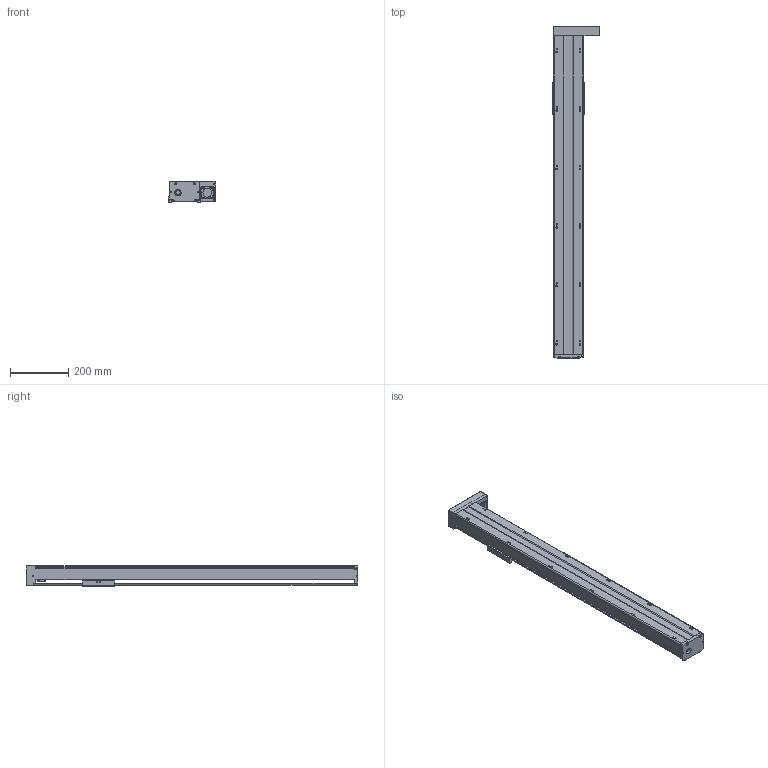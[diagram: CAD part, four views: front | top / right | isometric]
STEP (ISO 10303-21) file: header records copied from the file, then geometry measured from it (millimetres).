
FILE_DESCRIPTION(/* description */ (''),/* implementation_level */ '2;1');
FILE_NAME(/* name */ 'TKA100-FR-900_asm1.stp',/* time_stamp */ '2016-05-17T15:47:45+08:00',/* author */ (''),/* organization */ (''),/* preprocessor_version */ 'ST-DEVELOPER v15',/* originating_system */ 'SIEMENS PLM Software NX 8.5',/* authorisation */ '');
FILE_SCHEMA (('AUTOMOTIVE_DESIGN { 1 0 10303 214 3 1 1 1 }'));
Length unit declared in the file: millimetre
Products named in the file (3): 200-2; 200-1; TKA100-FR-900_asm1
Assembly tree (2 placements, depth 2):
  TKA100-FR-900_asm1
    200-1
    200-2
Bounding box: 162 x 1136 x 71 mm (x, y, z)
Volume: 2358727.4 mm3; surface area: 803374.6 mm2
Topology: 2 solids, 16 shells, 808 faces, 2105 edges, 1374 vertices
Faces by surface type: plane 324, cylinder 307, cone 123, torus 28, bspline 26
Full cylindrical faces by diameter (mm): 2.5 x6, 2.6 x8, 3.3 x11, 3.4 x4, 3.8 x8, 4.2 x21, 4.3 x4, 4.5 x6, 5 x2, 5.5 x20, 6.6 x4, 8 x4, 9 x6, 10 x13, 11 x4, 12 x6, 15.3 x1, 16 x1, 22 x1, 24 x1, 28 x2, 30 x1, 33 x1
Entity records: 29352 total; most frequent: CARTESIAN_POINT 10670, DIRECTION 3833, ORIENTED_EDGE 3616, EDGE_CURVE 1808, AXIS2_PLACEMENT_3D 1517, VERTEX_POINT 1286, EDGE_LOOP 1119, ADVANCED_FACE 808
